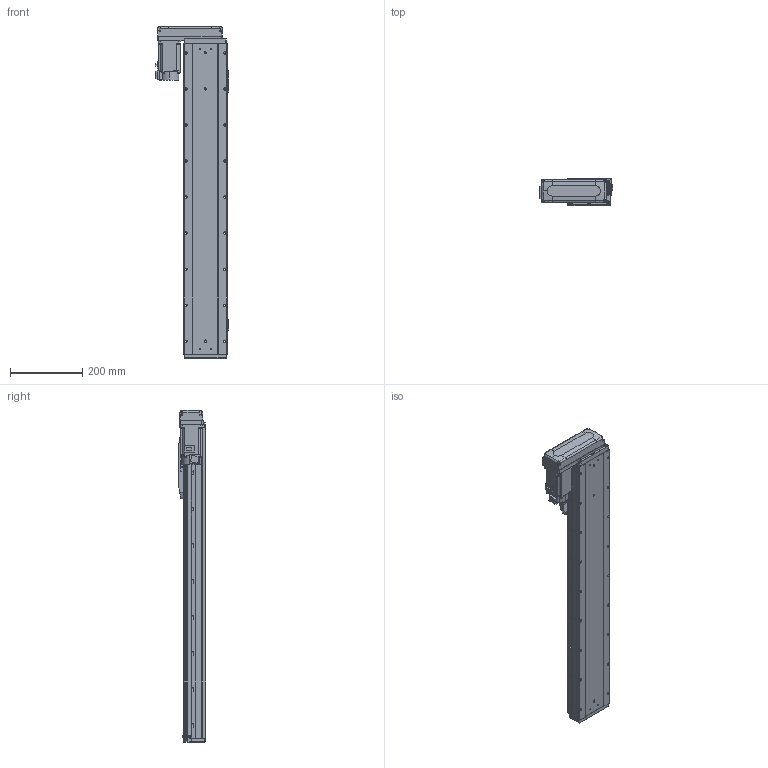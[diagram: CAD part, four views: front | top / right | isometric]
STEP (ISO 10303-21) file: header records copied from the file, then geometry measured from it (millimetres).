
FILE_DESCRIPTION (( 'STEP AP203' ), '1' );
FILE_NAME ('GTH12-650-BR-M40-C4.step', '2025-07-16T03:45:01', ( '' ), ( '' ), 'SwSTEP 2.0', 'SolidWorks 2023', '' );
FILE_SCHEMA (( 'CONFIG_CONTROL_DESIGN' ));
Length unit declared in the file: millimetre
Products named in the file (18): GTH120-003; GBT 70.1-M3×6; GTH120-001_650; GTH80-028; GTH50-024; CTHA86-033_M40B; GTH120-004; GTH50-023; GBT 70.3-M3×8; GTH120-013; GBT 70.1-M5×16; BTH-M3X5X6; GTH120-006; GTH80-022; GTH120-027-1_GTH120-027-2; hg-kn43j_-s100_; GTH12-650-BR-M40-C4; GBT96.1-2002 3×0.8
Assembly tree (59 placements, depth 2):
  GTH12-650-BR-M40-C4
    GTH120-001_650
    GTH120-003
    GTH120-006
    GTH120-004
    GTH120-013
    GBT 70.1-M3×6  x14
    GBT 70.1-M5×16  x10
    GBT 70.3-M3×8  x4
    GTH80-022
    GTH80-028  x2
    GTH50-023  x3
    GTH50-024  x3
    GBT96.1-2002 3×0.8  x6
    BTH-M3X5X6  x8
    hg-kn43j_-s100_
    CTHA86-033_M40B
    GTH120-027-1_GTH120-027-2
Bounding box: 203.5 x 76 x 920.5 mm (x, y, z)
Volume: 6854693.5 mm3; surface area: 636266.3 mm2
Topology: 61 solids, 61 shells, 2453 faces, 5722 edges, 3511 vertices
Faces by surface type: plane 1264, cylinder 709, cone 292, torus 174, sphere 8, bspline 6
Entity records: 45880 total; most frequent: CARTESIAN_POINT 7772, DIRECTION 7594, ORIENTED_EDGE 7054, EDGE_CURVE 3527, AXIS2_PLACEMENT_3D 2654, LINE 2286, VECTOR 2286, VERTEX_POINT 2232
